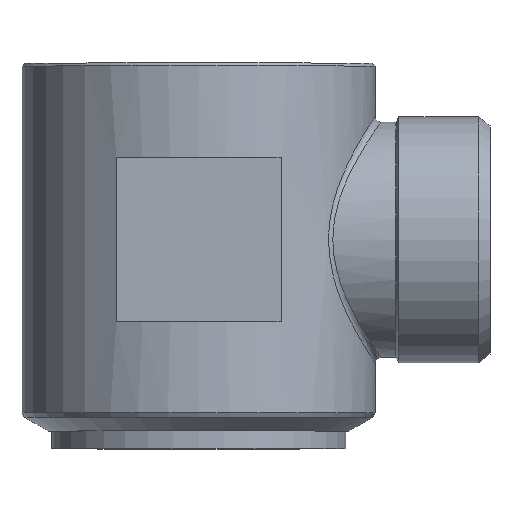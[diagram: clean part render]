
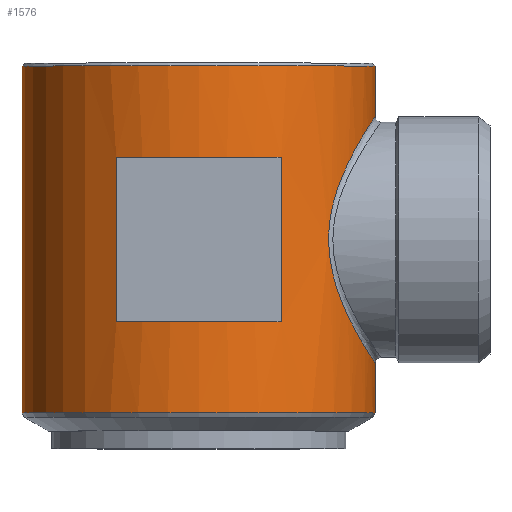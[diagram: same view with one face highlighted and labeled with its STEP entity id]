
A CAD part, top view. The second image highlights one B-rep face of the part: STEP entity #1576.
In plain terms, the highlighted cylindrical face has radius 30 mm (diameter 60 mm), a partial arc.
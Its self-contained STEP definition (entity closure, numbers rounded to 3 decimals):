
#275=CARTESIAN_POINT('',(-30.0,44.25,0.));
#276=VERTEX_POINT('',#275);
#292=CARTESIAN_POINT('',(30.0,44.25,0.0));
#293=VERTEX_POINT('',#292);
#357=CARTESIAN_POINT('',(30.0,-14.652,0.));
#358=VERTEX_POINT('',#357);
#359=CARTESIAN_POINT('',(30.0,-6.25,0.));
#360=VERTEX_POINT('',#359);
#361=CARTESIAN_POINT('',(30.0,-14.652,0.));
#362=DIRECTION('',(0.0,1.0,0.0));
#363=VECTOR('',#362,8.402);
#364=LINE('',#361,#363);
#365=EDGE_CURVE('',#358,#360,#364,.T.);
#367=CARTESIAN_POINT('',(-30.0,-14.652,0.0));
#368=VERTEX_POINT('',#367);
#376=CARTESIAN_POINT('',(-30.0,44.25,0.));
#377=DIRECTION('',(0.0,-1.0,0.0));
#378=VECTOR('',#377,58.902);
#379=LINE('',#376,#378);
#380=EDGE_CURVE('',#276,#368,#379,.T.);
#383=CARTESIAN_POINT('',(30.0,35.75,0.));
#384=VERTEX_POINT('',#383);
#385=CARTESIAN_POINT('',(30.0,35.75,0.));
#386=DIRECTION('',(0.0,1.0,0.0));
#387=VECTOR('',#386,8.5);
#388=LINE('',#385,#387);
#389=EDGE_CURVE('',#384,#293,#388,.T.);
#1469=CARTESIAN_POINT('',(0.0,-14.652,0.0));
#1470=DIRECTION('',(0.0,-1.0,0.0));
#1471=DIRECTION('',(1.0,0.0,0.0));
#1472=AXIS2_PLACEMENT_3D('',#1469,#1470,#1471);
#1473=CIRCLE('',#1472,30.0);
#1474=EDGE_CURVE('',#358,#368,#1473,.T.);
#1487=CARTESIAN_POINT('',(0.0,-17.75,0.0));
#1488=DIRECTION('',(0.0,1.0,0.0));
#1489=DIRECTION('',(1.0,0.0,0.0));
#1490=AXIS2_PLACEMENT_3D('',#1487,#1488,#1489);
#1491=CYLINDRICAL_SURFACE('',#1490,30.0);
#1492=ORIENTED_EDGE('',*,*,#365,.T.);
#1493=CARTESIAN_POINT('',(30.0,-6.25,0.));
#1494=CARTESIAN_POINT('',(30.0,-6.25,3.374));
#1495=CARTESIAN_POINT('',(29.39,-5.346,6.733));
#1496=CARTESIAN_POINT('',(27.296,-1.912,12.937));
#1497=CARTESIAN_POINT('',(25.694,0.819,15.66));
#1498=CARTESIAN_POINT('',(23.006,7.411,19.388));
#1499=CARTESIAN_POINT('',(21.978,11.341,20.42));
#1500=CARTESIAN_POINT('',(22.164,18.978,20.218));
#1501=CARTESIAN_POINT('',(23.165,22.505,19.177));
#1502=CARTESIAN_POINT('',(25.661,28.571,15.695));
#1503=CARTESIAN_POINT('',(27.155,31.164,13.172));
#1504=CARTESIAN_POINT('',(29.323,34.749,7.083));
#1505=CARTESIAN_POINT('',(30.,35.75,3.551));
#1506=CARTESIAN_POINT('',(30.0,35.75,0.));
#1507=B_SPLINE_CURVE_WITH_KNOTS('',3,(#1493,#1494,#1495,#1496,#1497,#1498,#1499,#1500,#1501,#1502,#1503,#1504,#1505,#1506),.UNSPECIFIED.,.F.,.U.,(4,2,2,2,2,2,4),(31.393,41.038,52.299,63.303,73.395,84.003,94.165),.UNSPECIFIED.);
#1508=EDGE_CURVE('',#384,#360,#1507,.F.);
#1509=ORIENTED_EDGE('',*,*,#1508,.F.);
#1510=ORIENTED_EDGE('',*,*,#389,.T.);
#1511=CARTESIAN_POINT('',(0.0,44.25,0.0));
#1512=DIRECTION('',(0.0,1.0,0.0));
#1513=DIRECTION('',(-1.0,0.0,0.0));
#1514=AXIS2_PLACEMENT_3D('',#1511,#1512,#1513);
#1515=CIRCLE('',#1514,30.0);
#1516=EDGE_CURVE('',#276,#293,#1515,.T.);
#1517=ORIENTED_EDGE('',*,*,#1516,.F.);
#1518=ORIENTED_EDGE('',*,*,#380,.T.);
#1519=ORIENTED_EDGE('',*,*,#1474,.F.);
#1520=EDGE_LOOP('',(#1492,#1509,#1510,#1517,#1518,#1519));
#1521=FACE_OUTER_BOUND('',#1520,.T.);
#1522=CARTESIAN_POINT('',(-14.,0.75,26.533));
#1523=VERTEX_POINT('',#1522);
#1524=CARTESIAN_POINT('',(-14.,28.75,26.533));
#1525=VERTEX_POINT('',#1524);
#1526=CARTESIAN_POINT('',(-14.,0.75,26.533));
#1527=DIRECTION('',(0.0,1.0,0.0));
#1528=VECTOR('',#1527,28.0);
#1529=LINE('',#1526,#1528);
#1530=EDGE_CURVE('',#1523,#1525,#1529,.T.);
#1531=ORIENTED_EDGE('',*,*,#1530,.T.);
#1532=CARTESIAN_POINT('',(0.0,28.75,30.0));
#1533=VERTEX_POINT('',#1532);
#1534=CARTESIAN_POINT('',(0.0,28.75,0.0));
#1535=DIRECTION('',(0.0,1.0,0.0));
#1536=DIRECTION('',(1.0,0.0,0.0));
#1537=AXIS2_PLACEMENT_3D('',#1534,#1535,#1536);
#1538=CIRCLE('',#1537,30.0);
#1539=EDGE_CURVE('',#1525,#1533,#1538,.T.);
#1540=ORIENTED_EDGE('',*,*,#1539,.T.);
#1541=CARTESIAN_POINT('',(14.,28.75,26.533));
#1542=VERTEX_POINT('',#1541);
#1543=CARTESIAN_POINT('',(0.0,28.75,0.0));
#1544=DIRECTION('',(0.0,1.0,0.0));
#1545=DIRECTION('',(1.0,0.0,0.0));
#1546=AXIS2_PLACEMENT_3D('',#1543,#1544,#1545);
#1547=CIRCLE('',#1546,30.0);
#1548=EDGE_CURVE('',#1533,#1542,#1547,.T.);
#1549=ORIENTED_EDGE('',*,*,#1548,.T.);
#1550=CARTESIAN_POINT('',(14.,0.75,26.533));
#1551=VERTEX_POINT('',#1550);
#1552=CARTESIAN_POINT('',(14.,28.75,26.533));
#1553=DIRECTION('',(0.0,-1.0,0.0));
#1554=VECTOR('',#1553,28.);
#1555=LINE('',#1552,#1554);
#1556=EDGE_CURVE('',#1542,#1551,#1555,.T.);
#1557=ORIENTED_EDGE('',*,*,#1556,.T.);
#1558=CARTESIAN_POINT('',(0.0,0.75,30.0));
#1559=VERTEX_POINT('',#1558);
#1560=CARTESIAN_POINT('',(0.0,0.75,0.0));
#1561=DIRECTION('',(0.0,-1.0,0.0));
#1562=DIRECTION('',(1.0,0.0,0.0));
#1563=AXIS2_PLACEMENT_3D('',#1560,#1561,#1562);
#1564=CIRCLE('',#1563,30.0);
#1565=EDGE_CURVE('',#1551,#1559,#1564,.T.);
#1566=ORIENTED_EDGE('',*,*,#1565,.T.);
#1567=CARTESIAN_POINT('',(0.0,0.75,0.0));
#1568=DIRECTION('',(0.0,-1.0,0.0));
#1569=DIRECTION('',(1.0,0.0,0.0));
#1570=AXIS2_PLACEMENT_3D('',#1567,#1568,#1569);
#1571=CIRCLE('',#1570,30.0);
#1572=EDGE_CURVE('',#1559,#1523,#1571,.T.);
#1573=ORIENTED_EDGE('',*,*,#1572,.T.);
#1574=EDGE_LOOP('',(#1531,#1540,#1549,#1557,#1566,#1573));
#1575=FACE_BOUND('',#1574,.T.);
#1576=ADVANCED_FACE('',(#1521,#1575),#1491,.T.);
